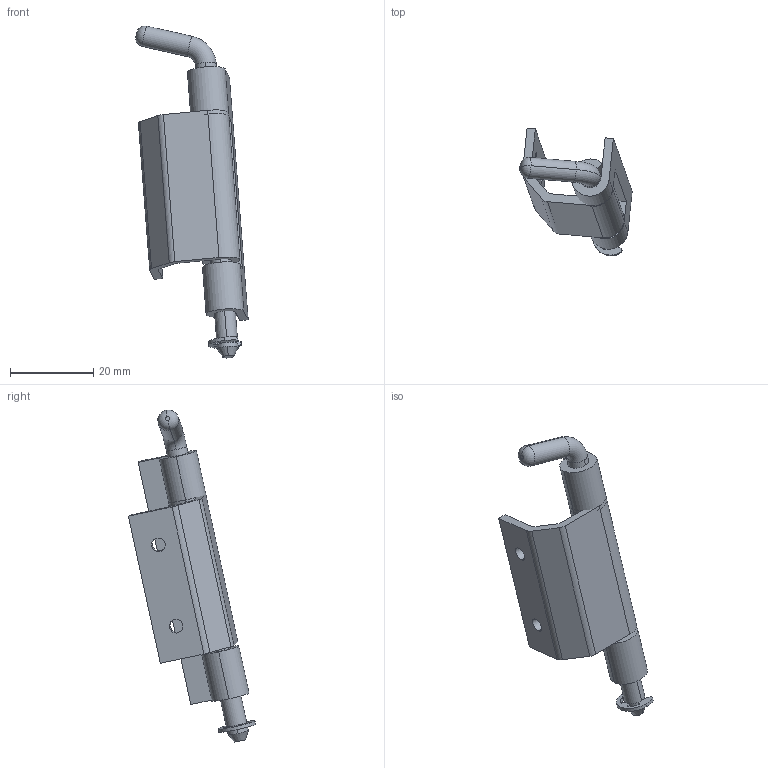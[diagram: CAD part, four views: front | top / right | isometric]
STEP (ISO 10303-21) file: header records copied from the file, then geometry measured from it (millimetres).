
FILE_DESCRIPTION (( 'STEP AP214' ), '1' );
FILE_NAME ('3.ST43.002.STEP', '2010-06-08T17:41:47', ( '£ukasz Cieæka' ), ( '' ), 'SwSTEP 2.0', 'SolidWorks 2010', '' );
FILE_SCHEMA (( 'AUTOMOTIVE_DESIGN' ));
Length unit declared in the file: millimetre
Products named in the file (5): 3B.St43.03.00.00_Default; 3B.St43.01.00.00; 3B.St43.02.01.00; Zabezpieczenie; 3.ST43.002
Assembly tree (4 placements, depth 2):
  3.ST43.002
    3B.St43.01.00.00
    Zabezpieczenie
    3B.St43.03.00.00_Default
    3B.St43.02.01.00
Bounding box: 26.93 x 30.49 x 79.6 mm (x, y, z)
Volume: 6957.9 mm3; surface area: 7575.5 mm2
Topology: 5 solids, 5 shells, 94 faces, 242 edges, 160 vertices
Faces by surface type: plane 39, cylinder 31, bspline 18, torus 4, cone 2
Entity records: 3181 total; most frequent: CARTESIAN_POINT 737, ORIENTED_EDGE 484, DIRECTION 446, EDGE_CURVE 242, VERTEX_POINT 160, AXIS2_PLACEMENT_3D 157, VECTOR 132, LINE 132
